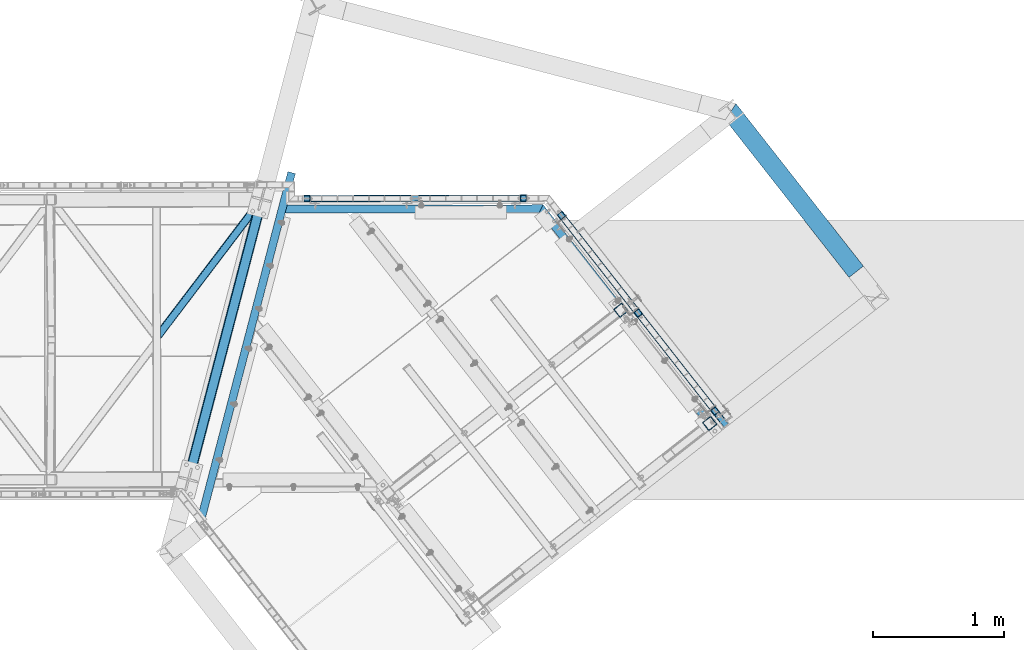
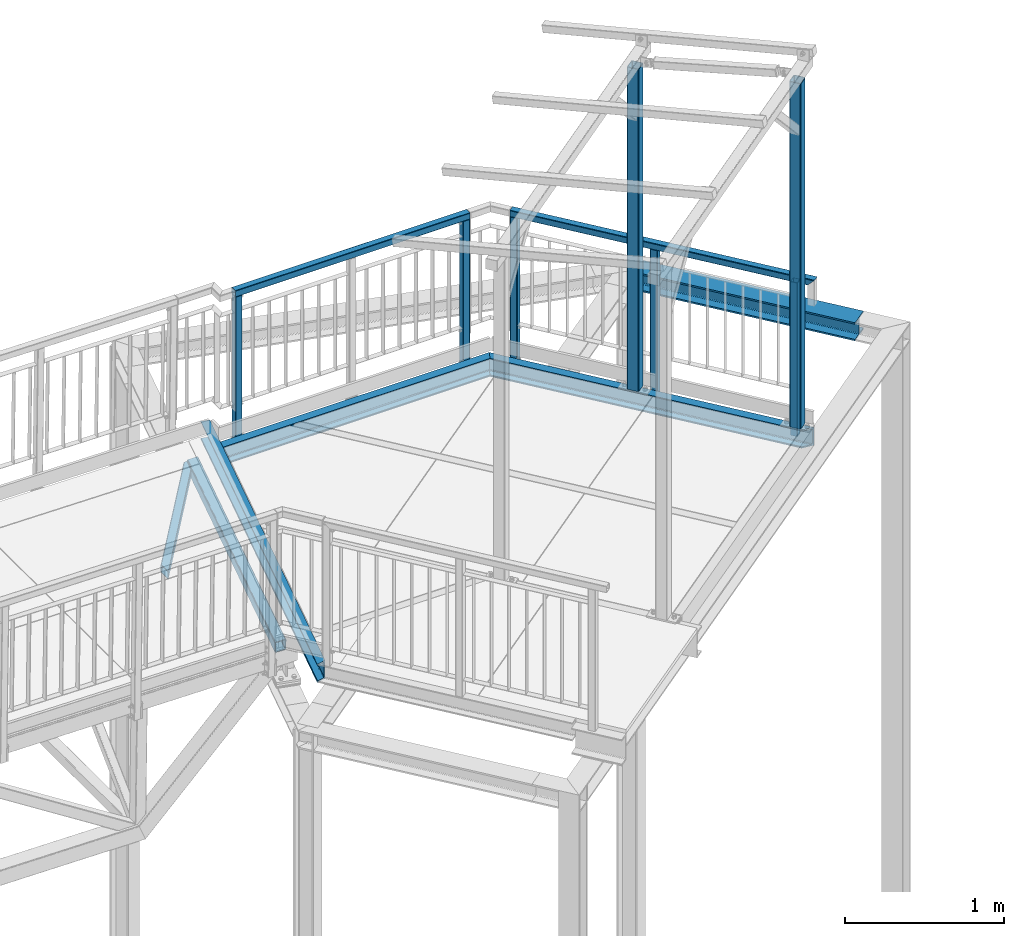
# One storey, part 63 of 169: 15 discrete accessories, 6 elements without a shape of their own.
"""IFC2X3 building model written with IfcOpenShell, lengths in millimetres."""

from ifc_helpers import new_model, si_unit, frame, origin_with_axes, origin_2d_with_axis, place, context, subcontext, project, spatial, rectangle, hollow_rectangle, i_section, u_section, extrude, boolean, clip, halfspace, material, type_object, element, aggregate, save


model = new_model("IFC2X3")

# Units and contexts
model_context = context("Model", 3, precision=1e-05, world=origin_with_axes())
body_context = subcontext(model_context, "Body", "Model", "MODEL_VIEW")
ifc_project = project(units=[si_unit("LENGTHUNIT", "METRE", prefix="MILLI"), si_unit("AREAUNIT", "SQUARE_METRE"), si_unit("VOLUMEUNIT", "CUBIC_METRE"), si_unit("MASSUNIT", "GRAM", prefix="KILO"), si_unit("TIMEUNIT", "SECOND"), si_unit("PLANEANGLEUNIT", "RADIAN"), si_unit("SOLIDANGLEUNIT", "STERADIAN"), si_unit("THERMODYNAMICTEMPERATUREUNIT", "DEGREE_CELSIUS"), si_unit("LUMINOUSINTENSITYUNIT", "LUMEN")], contexts=[model_context])

# Site, building, storey
site_placement = place(None, origin_with_axes())
site = spatial("IfcSite", under=ifc_project, at=site_placement, Name="Undefined", CompositionType="ELEMENT")
building_placement = place(site_placement, origin_with_axes())
building = spatial("IfcBuilding", under=site, at=building_placement, Name="Undefined", CompositionType="ELEMENT")
storey_placement = place(building_placement, origin_with_axes())
storey = spatial("IfcBuildingStorey", under=building, at=storey_placement, Name="Undefined", CompositionType="ELEMENT", Elevation=0.0)

# Assembly, discrete accessory
assembly_1_placement = place(storey_placement, origin_with_axes())
assembly_1 = element("IfcElementAssembly", 1, at=assembly_1_placement, inside=storey, Name="Steel Assembly", AssemblyPlace="NOTDEFINED", PredefinedType="RIGID_FRAME")
ifc_material_1 = material(Name="STEEL/S235")
discrete_accessory_type_1 = type_object("IfcDiscreteAccessoryType", Name="BEAM")
discrete_accessory_1_placement = place(assembly_1_placement, frame((22420.7569437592, 566.984267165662, 13801.7691856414), z_axis=(0.0, 0.0, 1.0), x_axis=(-0.617242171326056, 0.786773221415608, 5.09999997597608e-08)))
discrete_accessory_1 = element("IfcDiscreteAccessory", 2, at=discrete_accessory_1_placement, type_object=discrete_accessory_type_1, material=ifc_material_1, Name="BEAM", ObjectType="SHS80*4", context=body_context, shape_type="Clipping", body=[
    clip(clip(extrude(hollow_rectangle(XDim=80.0, YDim=80.0, WallThickness=4.0, InnerFilletRadius=4.0, OuterFilletRadius=8.0, at=origin_2d_with_axis()), frame((-1.81898947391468e-12, -3.4050539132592e-20, 2658.45899038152), z_axis=(-2.54700353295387e-10, 0.0, -1.0), x_axis=(0.0, 1.0, 0.0)), (0.0, 0.0, 1.0), 2651.81), halfspace(frame((1000.00000544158, -4.15700924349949e-06, 2658.45912641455), z_axis=(-2.54700353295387e-10, 0.0, -1.0), x_axis=(0.0, 1.0, 0.0)), True)), halfspace(frame((5.49334799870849e-10, -40.0000000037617, 6.64859210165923), z_axis=(0.0, 0.0, 1.0), x_axis=(-1.0, -3.46944695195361e-18, -1.38777878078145e-17)), True)),
])
aggregate(assembly_1, [discrete_accessory_1])

assembly_2_placement = place(storey_placement, origin_with_axes())
assembly_2 = element("IfcElementAssembly", 3, at=assembly_2_placement, inside=storey, Name="Steel Assembly", AssemblyPlace="NOTDEFINED", PredefinedType="RIGID_FRAME")
discrete_accessory_2_placement = place(assembly_2_placement, frame((21741.7905552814, 1432.43481073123, 13801.7690360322), z_axis=(0.0, 0.0, 1.0), x_axis=(-0.617242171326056, 0.786773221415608, 5.09999997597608e-08)))
discrete_accessory_2 = element("IfcDiscreteAccessory", 4, at=discrete_accessory_2_placement, type_object=discrete_accessory_type_1, material=ifc_material_1, Name="BEAM", ObjectType="SHS80*4", context=body_context, shape_type="Clipping", body=[
    clip(clip(extrude(hollow_rectangle(XDim=80.0, YDim=80.0, WallThickness=4.0, InnerFilletRadius=4.0, OuterFilletRadius=8.0, at=origin_2d_with_axis()), frame((6.57101462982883e-20, -3.17962670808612e-20, 2482.45913970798), z_axis=(-2.54700353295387e-10, 0.0, -1.0), x_axis=(0.0, 1.0, 0.0)), (0.0, 0.0, 1.0), 2475.81), halfspace(frame((1000.0000054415, -4.15693648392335e-06, 2482.45927574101), z_axis=(-2.54700353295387e-10, 0.0, -1.0), x_axis=(0.0, 1.0, 0.0)), True)), halfspace(frame((5.49334799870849e-10, -40.0000000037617, 6.64859210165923), z_axis=(0.0, 0.0, 1.0), x_axis=(-1.0, -3.46944695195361e-18, -1.38777878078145e-17)), True)),
])
aggregate(assembly_2, [discrete_accessory_2])

assembly_3_placement = place(storey_placement, origin_with_axes())
assembly_3 = element("IfcElementAssembly", 5, at=assembly_3_placement, inside=storey, Name="Steel Assembly", AssemblyPlace="NOTDEFINED", PredefinedType="RIGID_FRAME")
ifc_material_2 = material(Name="STEEL/S355")
discrete_accessory_3_placement = place(assembly_3_placement, frame((22583.5348661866, 2945.8756067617, 13470.4176996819), z_axis=(-2.54700353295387e-10, 0.0, -1.0), x_axis=(0.617242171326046, -0.786773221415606, 1.36000016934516e-07)))
discrete_accessory_3 = element("IfcDiscreteAccessory", 6, at=discrete_accessory_3_placement, type_object=discrete_accessory_type_1, material=ifc_material_2, Name="BEAM", ObjectType="HEB140", context=body_context, shape_type="Clipping", body=[
    clip(extrude(i_section(OverallWidth=140.0, OverallDepth=140.0, WebThickness=7.0, FlangeThickness=12.0, FilletRadius=12.0, at=origin_2d_with_axis()), frame((1549.99999999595, 9.6589552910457e-14, -1.81898940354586e-12), z_axis=(-1.0, -3.46944695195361e-18, -1.38777878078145e-17), x_axis=(1.73472347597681e-18, -1.0, 0.0)), (0.0, 0.0, 1.0), 1697.61), halfspace(frame((-28.1953087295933, -69.9999999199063, 8.34697857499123e-08), z_axis=(-0.947623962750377, 0.319388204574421, -8.09404132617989e-10), x_axis=(-2.54700353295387e-10, 0.0, -1.0)), False)),
])
aggregate(assembly_3, [discrete_accessory_3])

# Assembly, discrete accessories
assembly_4_placement = place(storey_placement, origin_with_axes())
assembly_4 = element("IfcElementAssembly", 7, at=assembly_4_placement, inside=storey, Name="Steel Assembly", AssemblyPlace="NOTDEFINED", PredefinedType="RIGID_FRAME")
discrete_accessory_4_placement = place(assembly_4_placement, frame((21118.1762134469, 2208.66105360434, 13725.0829302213), z_axis=(-2.54700353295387e-10, 0.0, -1.0), x_axis=(-0.999998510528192, -0.00172596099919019, -1.65999999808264e-07)))
discrete_accessory_4 = element("IfcDiscreteAccessory", 8, at=discrete_accessory_4_placement, type_object=discrete_accessory_type_1, material=ifc_material_2, Name="BEAM", ObjectType="UPN140", context=body_context, shape_type="Clipping", body=[
    clip(clip(extrude(u_section(Depth=140.0, FlangeWidth=60.0, WebThickness=7.0, FlangeThickness=10.0, FilletRadius=10.0, EdgeRadius=5.0, at=origin_2d_with_axis()), frame((1956.92743907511, 2.12205716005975e-16, -1.81898950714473e-12), z_axis=(-1.0, -3.46944695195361e-18, -1.38777878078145e-17), x_axis=(1.73472347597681e-18, -1.0, 0.0)), (0.0, 0.0, 1.0), 1994.29), halfspace(frame((1936.19304003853, -7.62897920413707, -999.999996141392), z_axis=(-0.967125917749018, -0.254297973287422, 1.71550557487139e-07), x_axis=(-0.254297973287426, 0.967125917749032, 3.50020854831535e-10)), True)), halfspace(frame((1.88483354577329e-05, -29.9999999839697, -1.27265957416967e-06), z_axis=(-0.898855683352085, -0.438244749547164, 6.69307269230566e-11), x_axis=(-2.54700353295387e-10, 0.0, -1.0)), False)),
])
discrete_accessory_5_placement = place(assembly_4_placement, frame((22482.4811847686, 488.306926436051, 13725.4177871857), z_axis=(-2.54700353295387e-10, 0.0, -1.0), x_axis=(-0.617242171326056, 0.786773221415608, 5.09999997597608e-08)))
discrete_accessory_5 = element("IfcDiscreteAccessory", 9, at=discrete_accessory_5_placement, type_object=discrete_accessory_type_1, material=ifc_material_2, Name="BEAM", ObjectType="UPN140", context=body_context, shape_type="Clipping", body=[
    clip(clip(extrude(u_section(Depth=140.0, FlangeWidth=60.0, WebThickness=7.0, FlangeThickness=10.0, FilletRadius=10.0, EdgeRadius=5.0, at=origin_2d_with_axis()), frame((2249.87229306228, 2.5604862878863e-13, -1.81898934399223e-12), z_axis=(-1.0, -3.46944695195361e-18, -1.38777878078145e-17), x_axis=(1.73472347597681e-18, -1.0, 0.0)), (0.0, 0.0, 1.0), 2283.12), halfspace(frame((2172.00001156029, -30.0000146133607, 0.334555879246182), z_axis=(-0.898855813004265, 0.438244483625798, -2.63772723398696e-10), x_axis=(-2.54700353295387e-10, 0.0, -1.0)), True)), halfspace(frame((0.0, 29.9999930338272, 0.0), z_axis=(-0.707106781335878, -0.707106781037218, 2.34571939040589e-10), x_axis=(0.0, 0.0, 1.0)), False)),
])
discrete_accessory_6_placement = place(assembly_4_placement, frame((18527.0829739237, -191.878299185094, 13725.2498820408), z_axis=(-2.54700353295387e-10, 0.0, -1.0), x_axis=(0.252628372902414, 0.967563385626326, 0.0)))
discrete_accessory_6 = element("IfcDiscreteAccessory", 10, at=discrete_accessory_6_placement, type_object=discrete_accessory_type_1, material=ifc_material_2, Name="BEAM", ObjectType="UPN140", context=body_context, shape_type="Clipping", body=[
    clip(extrude(u_section(Depth=140.0, FlangeWidth=60.0, WebThickness=7.0, FlangeThickness=10.0, FilletRadius=10.0, EdgeRadius=5.0, at=origin_2d_with_axis()), frame((2765.77667485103, 0.0, 1.81898940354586e-12), z_axis=(-1.0, -3.46944695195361e-18, -1.38777878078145e-17), x_axis=(1.73472347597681e-18, -1.0, 0.0)), (0.0, 0.0, 1.0), 2780.74), halfspace(frame((29.7504096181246, 30.0000000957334, 5.04641866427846e-06), z_axis=(-0.895913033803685, 0.444229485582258, -3.59530989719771e-10), x_axis=(0.0, 0.0, 1.0)), False)),
])
aggregate(assembly_4, [discrete_accessory_4, discrete_accessory_5, discrete_accessory_6])

assembly_5_placement = place(storey_placement, origin_with_axes())
assembly_5 = element("IfcElementAssembly", 11, at=assembly_5_placement, inside=storey, Name="Steel Assembly", AssemblyPlace="NOTDEFINED", PredefinedType="RIGID_FRAME")
discrete_accessory_7_placement = place(assembly_5_placement, frame((18194.8090247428, 1223.94676662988, 13722.9141767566), z_axis=(0.796064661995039, -0.605127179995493, -0.0101069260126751), x_axis=(0.605078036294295, 0.796128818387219, -0.00771197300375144)))
discrete_accessory_7 = element("IfcDiscreteAccessory", 12, at=discrete_accessory_7_placement, type_object=discrete_accessory_type_1, material=ifc_material_2, Name="BEAM", ObjectType="K60/4", context=body_context, shape_type="CSG", body=[
    boolean("DIFFERENCE", boolean("DIFFERENCE", boolean("DIFFERENCE", extrude(hollow_rectangle(XDim=60.0, YDim=60.0, WallThickness=4.0, InnerFilletRadius=4.0, OuterFilletRadius=8.0, at=origin_2d_with_axis()), frame((1291.86363707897, -1.81898940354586e-12, -3.02888694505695e-14), z_axis=(-1.0, -3.46944695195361e-18, -1.38777878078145e-17), x_axis=(1.73472347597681e-18, -1.0, 0.0)), (0.0, 0.0, 1.0), 1282.7), extrude(rectangle(XDim=82.0, YDim=82.0, at=origin_2d_with_axis()), frame((1488.47261052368, -0.0152987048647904, -68.4349012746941), z_axis=(-0.923191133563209, 1.00594284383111e-05, 0.384341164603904), x_axis=(-8.24583186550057e-06, -0.999999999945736, 6.36660809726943e-06)), (0.0, 0.0, 1.0), 356.12)), halfspace(frame((672.734845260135, -2.52537392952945e-06, -758.602415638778), z_axis=(-0.794999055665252, -4.2238609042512e-08, 0.606610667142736), x_axis=(0.0, 1.0, 0.0)), True)), halfspace(frame((-776.800733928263, -1.5232217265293e-08, 630.460639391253), z_axis=(0.606610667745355, -4.65838344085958e-10, 0.794999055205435), x_axis=(0.0, 1.0, 0.0)), True)),
])
discrete_accessory_8_placement = place(assembly_5_placement, frame((18437.4966356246, 139.217989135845, 13719.8631011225), z_axis=(0.967476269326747, -0.252662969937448, -0.0122919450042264), x_axis=(0.25264213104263, 0.967554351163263, -0.00324517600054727)))
discrete_accessory_8 = element("IfcDiscreteAccessory", 13, at=discrete_accessory_8_placement, type_object=discrete_accessory_type_1, material=ifc_material_2, Name="BEAM", ObjectType="K80/4", context=body_context, shape_type="Clipping", body=[
    clip(clip(extrude(hollow_rectangle(XDim=80.0, YDim=80.0, WallThickness=4.0, InnerFilletRadius=4.0, OuterFilletRadius=8.0, at=origin_2d_with_axis()), frame((2172.77082746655, -1.81804711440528e-12, 3.77381567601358e-12), z_axis=(-1.0, -3.46944695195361e-18, -1.38777878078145e-17), x_axis=(1.73472347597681e-18, -1.0, 0.0)), (0.0, 0.0, 1.0), 2132.33), halfspace(frame((1900.53725806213, -0.000627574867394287, -951.813526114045), z_axis=(-0.967081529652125, -1.04596076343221e-05, 0.25446672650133), x_axis=(-1.01153397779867e-05, 0.999999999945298, 2.66144567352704e-06)), True)), halfspace(frame((-196.256372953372, 0.000624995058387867, -982.349533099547), z_axis=(0.967081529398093, 1.04166077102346e-05, -0.254466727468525), x_axis=(1.00737349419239e-05, -0.999999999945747, -2.65058116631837e-06)), True)),
])
aggregate(assembly_5, [discrete_accessory_7, discrete_accessory_8])

assembly_6_placement = place(storey_placement, origin_with_axes())
assembly_6 = element("IfcElementAssembly", 14, at=assembly_6_placement, inside=storey, Name="Steel Assembly", AssemblyPlace="NOTDEFINED", PredefinedType="RIGID_FRAME")
discrete_accessory_type_2 = type_object("IfcDiscreteAccessoryType", Name="PORĘCZ")
discrete_accessory_9_placement = place(assembly_6_placement, frame((21022.4505914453, 2288.3093108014, 14870.0829156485), z_axis=(0.00162384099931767, -0.999998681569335, 1.10000109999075e-08), x_axis=(-0.999998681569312, -0.00162384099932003, -2.17981851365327e-07)))
discrete_accessory_9 = element("IfcDiscreteAccessory", 15, at=discrete_accessory_9_placement, type_object=discrete_accessory_type_2, material=ifc_material_1, Name="PORĘCZ", ObjectType="RHS50*3", context=body_context, shape_type="SweptSolid", body=[
    extrude(hollow_rectangle(XDim=50.0, YDim=50.0, WallThickness=3.0, InnerFilletRadius=3.0, OuterFilletRadius=6.0, at=origin_2d_with_axis()), frame((1705.70605190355, 0.0, 6.73072132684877e-26), z_axis=(-1.0, -3.46944695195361e-18, -1.38777878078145e-17), x_axis=(1.73472347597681e-18, -1.0, 0.0)), (0.0, 0.0, 1.0), 1705.71),
])
discrete_accessory_10_placement = place(assembly_6_placement, frame((22534.7733194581, 567.461920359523, 14870.4177978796), z_axis=(-0.7867732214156, -0.61724217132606, -1.0406294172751e-07), x_axis=(-0.617242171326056, 0.786773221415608, 5.09999997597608e-08)))
discrete_accessory_10 = element("IfcDiscreteAccessory", 16, at=discrete_accessory_10_placement, type_object=discrete_accessory_type_2, material=ifc_material_1, Name="PORĘCZ", ObjectType="RHS50*3", context=body_context, shape_type="Clipping", body=[
    clip(extrude(hollow_rectangle(XDim=50.0, YDim=50.0, WallThickness=3.0, InnerFilletRadius=3.0, OuterFilletRadius=6.0, at=origin_2d_with_axis()), frame((2046.25350908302, 5.41638793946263e-20, -8.80602751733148e-14), z_axis=(-1.0, -3.46944695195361e-18, -1.38777878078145e-17), x_axis=(1.73472347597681e-18, -1.0, 0.0)), (0.0, 0.0, 1.0), 2115.55), halfspace(frame((-20.0000008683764, -25.0000000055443, 5.47515810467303e-09), z_axis=(-0.707106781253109, 0.707106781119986, 1.80100347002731e-10), x_axis=(-2.54700353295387e-10, 0.0, -1.0)), False)),
])
discrete_accessory_type_3 = type_object("IfcDiscreteAccessoryType", Name="STANCHION")
discrete_accessory_11_placement = place(assembly_6_placement, frame((21287.1706046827, 2157.73004145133, 13665.4175270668), z_axis=(0.0, 0.0, 1.0), x_axis=(0.786773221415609, 0.617242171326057, 0.0)))
discrete_accessory_11 = element("IfcDiscreteAccessory", 17, at=discrete_accessory_11_placement, type_object=discrete_accessory_type_3, material=ifc_material_1, Name="STANCHION", ObjectType="SHS50*3", context=body_context, shape_type="Clipping", body=[
    clip(extrude(hollow_rectangle(XDim=50.0, YDim=50.0, WallThickness=3.0, InnerFilletRadius=3.0, OuterFilletRadius=6.0, at=origin_2d_with_axis()), frame((4.6851509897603e-20, -1.8189894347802e-12, 1180.00000006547), z_axis=(-2.54700353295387e-10, 0.0, -1.0), x_axis=(0.0, 1.0, 0.0)), (0.0, 0.0, 1.0), 1180.0), halfspace(frame((-4.70208760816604e-08, 25.0000002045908, 1179.99999930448), z_axis=(0.0, 0.0, 1.0), x_axis=(1.0, 0.0, 0.0)), False)),
])
discrete_accessory_12_placement = place(assembly_6_placement, frame((21873.9375346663, 1409.80237848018, 13665.4176563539), z_axis=(0.0, 0.0, 1.0), x_axis=(0.786773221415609, 0.617242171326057, 0.0)))
discrete_accessory_12 = element("IfcDiscreteAccessory", 18, at=discrete_accessory_12_placement, type_object=discrete_accessory_type_3, material=ifc_material_1, Name="STANCHION", ObjectType="SHS50*3", context=body_context, shape_type="Clipping", body=[
    clip(extrude(hollow_rectangle(XDim=50.0, YDim=50.0, WallThickness=3.0, InnerFilletRadius=3.0, OuterFilletRadius=6.0, at=origin_2d_with_axis()), frame((4.6851509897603e-20, -1.8189894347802e-12, 1180.00000006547), z_axis=(-2.54700353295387e-10, 0.0, -1.0), x_axis=(0.0, 1.0, 0.0)), (0.0, 0.0, 1.0), 1180.0), halfspace(frame((-4.70208760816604e-08, 25.0000002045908, 1179.99999930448), z_axis=(0.0, 0.0, 1.0), x_axis=(1.0, 0.0, 0.0)), False)),
])
discrete_accessory_13_placement = place(assembly_6_placement, frame((22460.7044482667, 661.874694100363, 13665.4177856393), z_axis=(0.0, 0.0, 1.0), x_axis=(0.786773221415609, 0.617242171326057, 0.0)))
discrete_accessory_13 = element("IfcDiscreteAccessory", 19, at=discrete_accessory_13_placement, type_object=discrete_accessory_type_3, material=ifc_material_1, Name="STANCHION", ObjectType="SHS50*3", context=body_context, shape_type="Clipping", body=[
    clip(extrude(hollow_rectangle(XDim=50.0, YDim=50.0, WallThickness=3.0, InnerFilletRadius=3.0, OuterFilletRadius=6.0, at=origin_2d_with_axis()), frame((4.6851509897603e-20, -1.8189894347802e-12, 1180.00000006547), z_axis=(-2.54700353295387e-10, 0.0, -1.0), x_axis=(0.0, 1.0, 0.0)), (0.0, 0.0, 1.0), 1180.0), halfspace(frame((-4.70208760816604e-08, 25.0000002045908, 1179.99999930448), z_axis=(0.0, 0.0, 1.0), x_axis=(1.0, 0.0, 0.0)), False)),
])
discrete_accessory_14_placement = place(assembly_6_placement, frame((19341.7469453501, 2285.57979137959, 13665.0826366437), z_axis=(0.0, 0.0, 1.0), x_axis=(-0.00162384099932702, 0.999998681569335, -1.10000109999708e-08)))
discrete_accessory_14 = element("IfcDiscreteAccessory", 20, at=discrete_accessory_14_placement, type_object=discrete_accessory_type_3, material=ifc_material_1, Name="STANCHION", ObjectType="SHS50*3", context=body_context, shape_type="Clipping", body=[
    clip(extrude(hollow_rectangle(XDim=50.0, YDim=50.0, WallThickness=3.0, InnerFilletRadius=3.0, OuterFilletRadius=6.0, at=origin_2d_with_axis()), frame((4.6851509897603e-20, -1.8189894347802e-12, 1180.00000006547), z_axis=(-2.54700353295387e-10, 0.0, -1.0), x_axis=(0.0, 1.0, 0.0)), (0.0, 0.0, 1.0), 1180.0), halfspace(frame((1000.00000027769, -2.3126631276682e-07, 1180.00001126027), z_axis=(-2.54700353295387e-10, 0.0, -1.0), x_axis=(0.0, 1.0, 0.0)), True)),
])
discrete_accessory_15_placement = place(assembly_6_placement, frame((20997.4533673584, 2288.26839893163, 13665.0829114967), z_axis=(0.0, 0.0, 1.0), x_axis=(-0.00162384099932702, 0.999998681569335, -1.10000109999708e-08)))
discrete_accessory_15 = element("IfcDiscreteAccessory", 21, at=discrete_accessory_15_placement, type_object=discrete_accessory_type_3, material=ifc_material_1, Name="STANCHION", ObjectType="SHS50*3", context=body_context, shape_type="Clipping", body=[
    clip(extrude(hollow_rectangle(XDim=50.0, YDim=50.0, WallThickness=3.0, InnerFilletRadius=3.0, OuterFilletRadius=6.0, at=origin_2d_with_axis()), frame((4.6851509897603e-20, -1.8189894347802e-12, 1180.00000006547), z_axis=(-2.54700353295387e-10, 0.0, -1.0), x_axis=(0.0, 1.0, 0.0)), (0.0, 0.0, 1.0), 1180.0), halfspace(frame((1000.00000027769, -2.3126631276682e-07, 1180.00001126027), z_axis=(-2.54700353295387e-10, 0.0, -1.0), x_axis=(0.0, 1.0, 0.0)), True)),
])
aggregate(assembly_6, [discrete_accessory_9, discrete_accessory_10, discrete_accessory_11, discrete_accessory_12, discrete_accessory_13, discrete_accessory_14, discrete_accessory_15])

save(model, "model.ifc")
